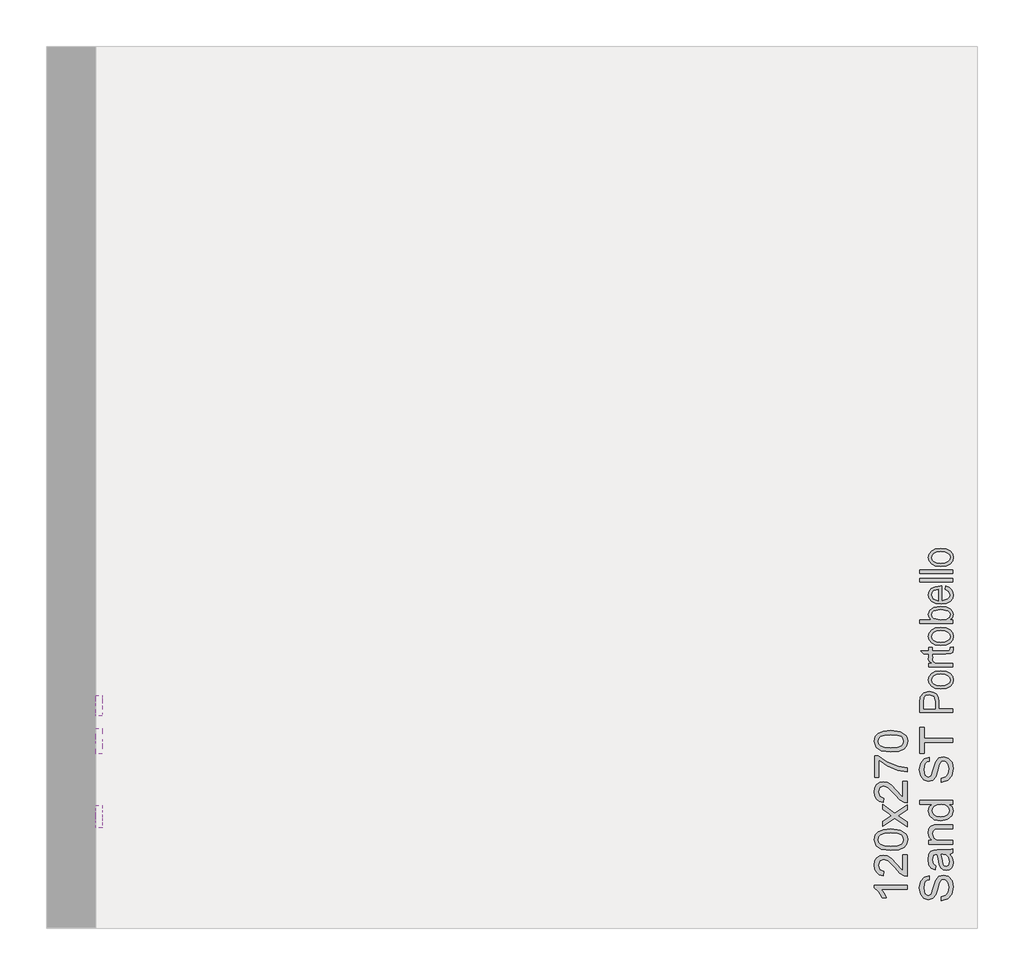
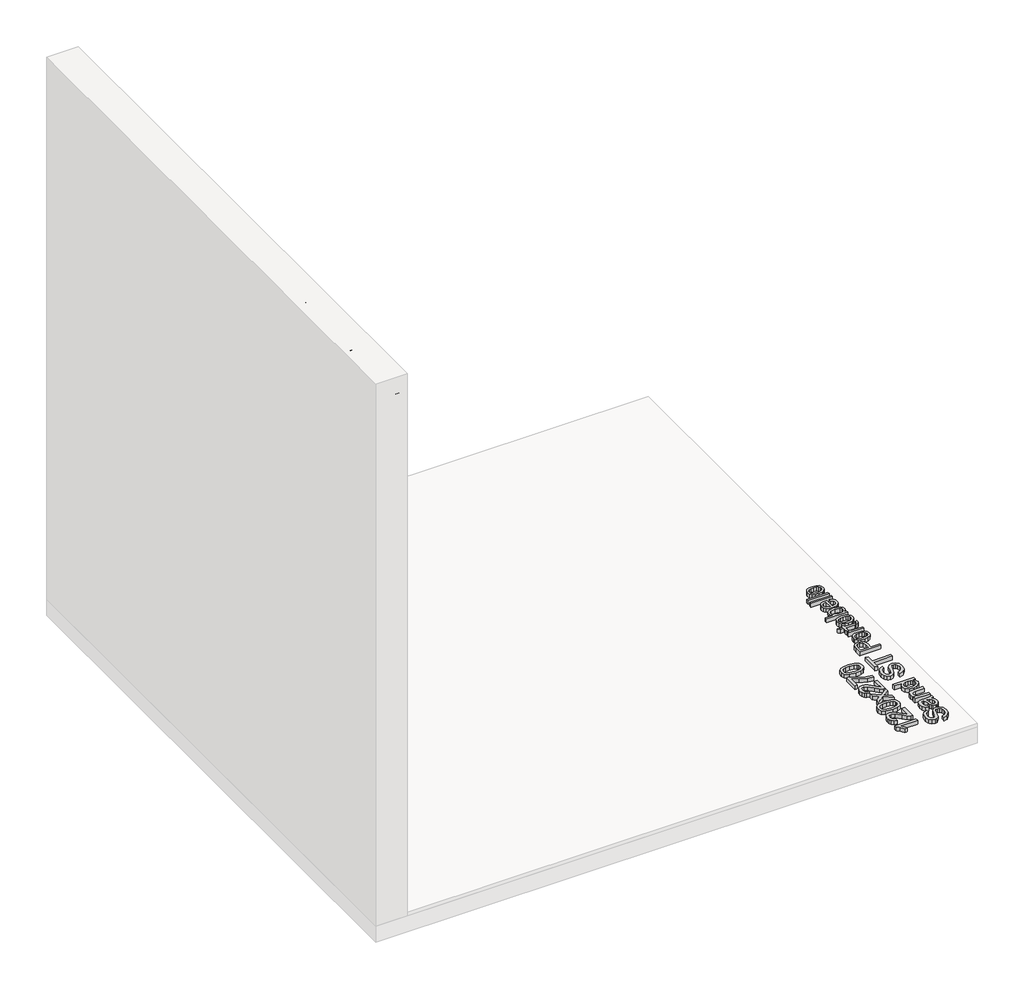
# One storey, part 9 of 19: 6 proxies.
"""IFC4 building model written with IfcOpenShell, lengths in millimetres."""

from ifc_helpers import new_model, si_unit, frame, origin, origin_with_axes, place, context, project, spatial, polyline, outline, extrude, element, save

model = new_model("IFC4")

# Units and contexts
model_context = context("Model", 3, world=origin())
ifc_project = project(units=[si_unit("LENGTHUNIT", "METRE", prefix="MILLI")], contexts=[model_context])

# Site, building, storey
site = spatial("IfcSite", under=ifc_project)
building = spatial("IfcBuilding", under=site)
storey = spatial("IfcBuildingStorey", under=building, Name="PORTOBELLO - SHOWROOM", Elevation=0.0)

# Proxies
placement = place(None, origin())
element("IfcBuildingElementProxy", 1, Name="10mm Arial", ObjectType="10mm Arial", at=placement, inside=storey, context=model_context, shape_type="SweptSolid", body=[
    extrude(outline(polyline([(-6404.3068753, 4387.4843452), (-6404.3068753, 4400.0413839), (-6391.7375738, 4404.0880859), (-6383.7913227, 4413.9718488), (-6380.7624276, 4429.0304851), (-6383.0555587, 4442.1516096), (-6389.3586036, 4450.6251583), (-6397.7831013, 4453.4087987), (-6405.6189878, 4451.3241341), (-6411.3211587, 4442.7892718), (-6416.1158873, 4424.5055366), (-6422.3085676, 4404.8238499), (-6431.6527703, 4394.1430093), (-6444.1362326, 4390.6236049), (-6458.3487404, 4394.9768751), (-6468.3796561, 4407.6933294), (-6471.8009587, 4426.3081584), (-6468.2202406, 4446.1737861), (-6457.6988155, 4459.4175379), (-6441.9779916, 4464.3962076), (-6441.9779916, 4451.8391688), (-6449.4705216, 4449.533775), (-6454.8783869, 4444.7267836), (-6459.2439199, 4426.7986677), (-6454.9274378, 4408.8215009), (-6444.5041146, 4403.1806436), (-6435.7975741, 4407.1782946), (-6428.7832907, 4427.6815845), (-6422.4802459, 4449.901657), (-6412.3021773, 4462.0540256), (-6398.1019323, 4465.9658375), (-6383.0800842, 4461.4654144), (-6372.1172007, 4448.5159682), (-6368.2053888, 4429.5209945), (-6372.4237691, 4407.0924555), (-6385.1279606, 4392.9044732), (-6404.3068753, 4387.4843452)])), origin_with_axes(), (0.0, 0.0, 1.0), 20.0),
    extrude(outline(polyline([(-6379.1927978, 4530.3206612), (-6370.6824609, 4518.1437671), (-6368.2053888, 4504.6915488), (-6369.6953109, 4494.1977149), (-6374.1650772, 4486.4568646), (-6380.9525, 4481.6835957), (-6389.3953918, 4480.0925061), (-6399.3282056, 4482.4960018), (-6406.5386927, 4488.8113094), (-6410.6589711, 4497.603689), (-6412.547432, 4508.4684706), (-6416.8639141, 4530.2470848), (-6419.6598172, 4530.3206612), (-6428.9304435, 4526.8625704), (-6432.5602125, 4512.9811564), (-6430.1444541, 4500.2769649), (-6421.5728036, 4494.2191747), (-6423.1424335, 4481.6621359), (-6435.4051666, 4487.0945267), (-6442.5911283, 4498.0328847), (-6445.1172513, 4514.5998372), (-6442.8854339, 4529.8178891), (-6437.2813648, 4538.414065), (-6428.7587652, 4542.2645633), (-6417.7713563, 4542.8776999), (-6402.1486343, 4542.8776999), (-6380.3332319, 4543.515362), (-6369.7750187, 4546.0169596), (-6369.7750187, 4533.4599208), (-6379.1927978, 4530.3206612)]), holes=[polyline([(-6404.3068753, 4530.3206612), (-6400.4563771, 4510.062626), (-6398.4207634, 4499.259158), (-6395.1098254, 4494.3663275), (-6390.2783086, 4492.6495448), (-6383.4847544, 4496.3896785), (-6380.7624276, 4507.3648247), (-6383.7667972, 4520.0690162), (-6391.038598, 4528.260522), (-6400.7506827, 4530.2470848), (-6404.3068753, 4530.3206612)])]), origin_with_axes(), (0.0, 0.0, 1.0), 20.0),
    extrude(outline(polyline([(-6369.7750187, 4560.1436282), (-6443.5476215, 4560.1436282), (-6443.5476215, 4572.700667), (-6433.2469256, 4572.700667), (-6442.1496699, 4582.3023871), (-6445.1172513, 4595.4112488), (-6442.7260183, 4607.2693118), (-6436.4474989, 4615.3627157), (-6427.2136609, 4619.1273748), (-6415.073555, 4619.7895624), (-6369.7750187, 4619.7895624), (-6369.7750187, 4607.2325236), (-6413.3812978, 4607.2325236), (-6424.4913341, 4605.7855211), (-6430.3651833, 4600.6719614), (-6432.5602125, 4592.0512599), (-6427.6305938, 4578.4273634), (-6420.4875517, 4574.1323411), (-6408.917663, 4572.700667), (-6369.7750187, 4572.700667), (-6369.7750187, 4560.1436282)])), origin_with_axes(), (0.0, 0.0, 1.0), 20.0),
    extrude(outline(polyline([(-6369.7750187, 4682.5747562), (-6381.6208189, 4682.5747562), (-6371.5592464, 4674.2667545), (-6368.2053888, 4662.7827049), (-6373.0614312, 4647.2335592), (-6386.6117513, 4636.2461503), (-6406.5877437, 4632.3466011), (-6426.5759987, 4635.939582), (-6440.3347854, 4646.7062617), (-6445.1172513, 4662.7336539), (-6441.6959487, 4674.3096741), (-6432.8054672, 4682.5747562), (-6470.2313288, 4682.5747562), (-6470.2313288, 4695.131795), (-6369.7750187, 4695.131795), (-6369.7750187, 4682.5747562)]), holes=[polyline([(-6406.6367946, 4644.9036399), (-6395.278438, 4646.3199856), (-6387.2003625, 4650.5690226), (-6382.3719113, 4656.7433088), (-6380.7624276, 4663.9354018), (-6382.2983349, 4671.1244291), (-6386.9060569, 4677.1423654), (-6394.6714327, 4681.2166585), (-6405.6803014, 4682.5747562), (-6417.716174, 4681.1921331), (-6426.0609639, 4677.0442636), (-6430.9354004, 4670.8730431), (-6432.5602125, 4663.420367), (-6430.9997797, 4656.1546976), (-6426.3184813, 4650.2011406), (-6418.2771941, 4646.2280151), (-6406.6367946, 4644.9036399)])]), origin_with_axes(), (0.0, 0.0, 1.0), 20.0),
    extrude(outline(polyline([(-6404.3068753, 4750.0688396), (-6404.3068753, 4762.6258784), (-6391.7375738, 4766.6725803), (-6383.7913227, 4776.5563433), (-6380.7624276, 4791.6149796), (-6383.0555587, 4804.7361041), (-6389.3586036, 4813.2096527), (-6397.7831013, 4815.9932931), (-6405.6189878, 4813.9086285), (-6411.3211587, 4805.3737662), (-6416.1158873, 4787.0900311), (-6422.3085676, 4767.4083443), (-6431.6527703, 4756.7275037), (-6444.1362326, 4753.2080993), (-6458.3487404, 4757.5613696), (-6468.3796561, 4770.2778239), (-6471.8009587, 4788.8926528), (-6468.2202406, 4808.7582806), (-6457.6988155, 4822.0020324), (-6441.9779916, 4826.9807021), (-6441.9779916, 4814.4236633), (-6449.4705216, 4812.1182695), (-6454.8783869, 4807.3112781), (-6459.2439199, 4789.3831622), (-6454.9274378, 4771.4059953), (-6444.5041146, 4765.7651381), (-6435.7975741, 4769.7627891), (-6428.7832907, 4790.2660789), (-6422.4802459, 4812.4861515), (-6412.3021773, 4824.63852), (-6398.1019323, 4828.5503319), (-6383.0800842, 4824.0499088), (-6372.1172007, 4811.1004626), (-6368.2053888, 4792.1054889), (-6372.4237691, 4769.6769499), (-6385.1279606, 4755.4889677), (-6404.3068753, 4750.0688396)])), origin_with_axes(), (0.0, 0.0, 1.0), 20.0),
    extrude(outline(polyline([(-6369.7750187, 4872.4999676), (-6457.6742901, 4872.4999676), (-6457.6742901, 4839.5377408), (-6470.2313288, 4839.5377408), (-6470.2313288, 4918.0192331), (-6457.6742901, 4918.0192331), (-6457.6742901, 4885.0570064), (-6369.7750187, 4885.0570064), (-6369.7750187, 4872.4999676)])), origin_with_axes(), (0.0, 0.0, 1.0), 20.0),
])
element("IfcBuildingElementProxy", 2, Name="10mm Arial", ObjectType="10mm Arial", at=placement, inside=storey, context=model_context, shape_type="SweptSolid", body=[
    extrude(outline(polyline([(4384.1273431, 2550.721447), (4396.6843818, 2550.721447), (4400.7310838, 2538.1521455), (4410.6148467, 2530.2058944), (4425.6734831, 2527.1769993), (4438.7946076, 2529.4701304), (4447.2681562, 2535.7731752), (4450.0517966, 2544.1976729), (4447.967132, 2552.0335594), (4439.4322697, 2557.7357303), (4421.1485345, 2562.530459), (4401.4668478, 2568.7231393), (4390.7860072, 2578.0673419), (4387.2666028, 2590.5508043), (4391.619873, 2604.763312), (4404.3363273, 2614.7942278), (4422.9511563, 2618.2155303), (4442.816784, 2614.6348123), (4456.0605359, 2604.1133872), (4461.0392055, 2588.3925633), (4448.4821668, 2588.3925633), (4446.1767729, 2595.8850932), (4441.3697815, 2601.2929586), (4423.4416656, 2605.6584916), (4405.4644988, 2601.3420095), (4399.8236415, 2590.9186863), (4403.8212925, 2582.2121457), (4424.3245824, 2575.1978624), (4446.5446549, 2568.8948175), (4458.6970235, 2558.716749), (4462.6088354, 2544.516504), (4458.1084123, 2529.4946558), (4445.1589661, 2518.5317724), (4426.1639924, 2514.6199605), (4403.7354534, 2518.8383407), (4389.5474711, 2531.5425323), (4384.1273431, 2550.721447)])), frame((-8994.2033025, 0.0, 0.0), z_axis=(1.0, 0.0, 0.0), x_axis=(0.0, 1.0, 0.0)), (0.0, 0.0, 1.0), 20.0),
    extrude(outline(polyline([(4526.9636591, 2525.6073694), (4514.786765, 2517.0970326), (4501.3345467, 2514.6199605), (4490.8407128, 2516.1098826), (4483.0998625, 2520.5796488), (4478.3265936, 2527.3670716), (4476.735504, 2535.8099634), (4479.1389997, 2545.7427773), (4485.4543073, 2552.9532644), (4494.246687, 2557.0735427), (4505.1114686, 2558.9620036), (4526.8900827, 2563.2784857), (4526.9636591, 2566.0743889), (4523.5055683, 2575.3450152), (4509.6241544, 2578.9747842), (4496.9199628, 2576.5590258), (4490.8621726, 2567.9873753), (4478.3051338, 2569.5570051), (4483.7375246, 2581.8197383), (4494.6758826, 2589.0056999), (4511.2428351, 2591.531823), (4526.460887, 2589.3000055), (4535.057063, 2583.6959365), (4538.9075612, 2575.1733369), (4539.5206978, 2564.185928), (4539.5206978, 2548.5632059), (4540.15836, 2526.7478036), (4542.6599575, 2516.1895903), (4530.1029188, 2516.1895903), (4526.9636591, 2525.6073694)]), holes=[polyline([(4526.9636591, 2550.721447), (4506.7056239, 2546.8709487), (4495.9021559, 2544.835335), (4491.0093254, 2541.5243971), (4489.2925428, 2536.6928802), (4493.0326764, 2529.899326), (4504.0078226, 2527.1769993), (4516.7120141, 2530.1813689), (4524.9035199, 2537.4531697), (4526.8900827, 2547.1652543), (4526.9636591, 2550.721447)])]), frame((-8994.2033025, 0.0, 0.0), z_axis=(1.0, 0.0, 0.0), x_axis=(0.0, 1.0, 0.0)), (0.0, 0.0, 1.0), 20.0),
    extrude(outline(polyline([(4556.7866261, 2516.1895903), (4556.7866261, 2589.9621931), (4569.3436649, 2589.9621931), (4569.3436649, 2579.6614972), (4578.945385, 2588.5642415), (4592.0542467, 2591.531823), (4603.9123097, 2589.14059), (4612.0057136, 2582.8620706), (4615.7703727, 2573.6282325), (4616.4325603, 2561.4881267), (4616.4325603, 2516.1895903), (4603.8755215, 2516.1895903), (4603.8755215, 2559.7958695), (4602.428519, 2570.9059058), (4597.3149593, 2576.7797549), (4588.6942579, 2578.9747842), (4575.0703613, 2574.0451655), (4570.775339, 2566.9021234), (4569.3436649, 2555.3322346), (4569.3436649, 2516.1895903), (4556.7866261, 2516.1895903)])), frame((-8994.2033025, 0.0, 0.0), z_axis=(1.0, 0.0, 0.0), x_axis=(0.0, 1.0, 0.0)), (0.0, 0.0, 1.0), 20.0),
    extrude(outline(polyline([(4679.2177541, 2516.1895903), (4679.2177541, 2528.0353906), (4670.9097524, 2517.973818), (4659.4257028, 2514.6199605), (4643.8765571, 2519.4760028), (4632.8891482, 2533.026323), (4628.9895991, 2553.0023153), (4632.5825799, 2572.9905704), (4643.3492596, 2586.749357), (4659.3766519, 2591.531823), (4670.952672, 2588.1105204), (4679.2177541, 2579.2200388), (4679.2177541, 2616.6459005), (4691.7747929, 2616.6459005), (4691.7747929, 2516.1895903), (4679.2177541, 2516.1895903)]), holes=[polyline([(4641.5466378, 2553.0513663), (4642.9629835, 2541.6930097), (4647.2120206, 2533.6149342), (4653.3863067, 2528.786483), (4660.5783997, 2527.1769993), (4667.767427, 2528.7129066), (4673.7853633, 2533.3206286), (4677.8596564, 2541.0860044), (4679.2177541, 2552.0948731), (4677.835131, 2564.1307457), (4673.6872615, 2572.4755356), (4667.516041, 2577.349972), (4660.0633649, 2578.9747842), (4652.7976955, 2577.4143514), (4646.8441386, 2572.733053), (4642.871013, 2564.6917657), (4641.5466378, 2553.0513663)])]), frame((-8994.2033025, 0.0, 0.0), z_axis=(1.0, 0.0, 0.0), x_axis=(0.0, 1.0, 0.0)), (0.0, 0.0, 1.0), 20.0),
    extrude(outline(polyline([(4746.7118375, 2550.721447), (4759.2688763, 2550.721447), (4763.3155782, 2538.1521455), (4773.1993412, 2530.2058944), (4788.2579775, 2527.1769993), (4801.379102, 2529.4701304), (4809.8526506, 2535.7731752), (4812.6362911, 2544.1976729), (4810.5516264, 2552.0335594), (4802.0167641, 2557.7357303), (4783.733029, 2562.530459), (4764.0513422, 2568.7231393), (4753.3705016, 2578.0673419), (4749.8510972, 2590.5508043), (4754.2043675, 2604.763312), (4766.9208218, 2614.7942278), (4785.5356507, 2618.2155303), (4805.4012785, 2614.6348123), (4818.6450303, 2604.1133872), (4823.6237, 2588.3925633), (4811.0666612, 2588.3925633), (4808.7612674, 2595.8850932), (4803.954276, 2601.2929586), (4786.0261601, 2605.6584916), (4768.0489932, 2601.3420095), (4762.408136, 2590.9186863), (4766.405787, 2582.2121457), (4786.9090769, 2575.1978624), (4809.1291494, 2568.8948175), (4821.2815179, 2558.716749), (4825.1933298, 2544.516504), (4820.6929067, 2529.4946558), (4807.7434605, 2518.5317724), (4788.7484868, 2514.6199605), (4766.3199479, 2518.8383407), (4752.1319656, 2531.5425323), (4746.7118375, 2550.721447)])), frame((-8994.2033025, 0.0, 0.0), z_axis=(1.0, 0.0, 0.0), x_axis=(0.0, 1.0, 0.0)), (0.0, 0.0, 1.0), 20.0),
    extrude(outline(polyline([(4869.1429655, 2516.1895903), (4869.1429655, 2604.0888617), (4836.1807387, 2604.0888617), (4836.1807387, 2616.6459005), (4914.6622311, 2616.6459005), (4914.6622311, 2604.0888617), (4881.7000043, 2604.0888617), (4881.7000043, 2516.1895903), (4869.1429655, 2516.1895903)])), frame((-8994.2033025, 0.0, 0.0), z_axis=(1.0, 0.0, 0.0), x_axis=(0.0, 1.0, 0.0)), (0.0, 0.0, 1.0), 20.0),
])
element("IfcBuildingElementProxy", 3, Name="10mm Arial", ObjectType="10mm Arial", at=placement, inside=storey, context=model_context, shape_type="SweptSolid", body=[
    extrude(outline(polyline([(4431.2162385, 2381.1895903), (4418.6591997, 2381.1895903), (4418.6591997, 2459.4748789), (4406.7643485, 2451.0013303), (4393.5451221, 2444.6614972), (4393.5451221, 2456.531823), (4411.9514846, 2468.2795213), (4423.1228346, 2481.6459005), (4431.2162385, 2481.6459005), (4431.2162385, 2381.1895903)])), frame((-8994.2033025, 0.0, 0.0), z_axis=(1.0, 0.0, 0.0), x_axis=(0.0, 1.0, 0.0)), (0.0, 0.0, 1.0), 20.0),
    extrude(outline(polyline([(4525.3940292, 2393.7466291), (4525.3940292, 2381.1895903), (4459.4695757, 2381.1895903), (4460.8184763, 2389.84708), (4468.4581591, 2403.1766709), (4484.1912458, 2417.7325352), (4505.8594953, 2438.652758), (4511.2673606, 2452.8775285), (4506.1538009, 2464.3922349), (4492.7996844, 2469.0888617), (4478.8814823, 2464.5025995), (4473.5962443, 2451.8229334), (4461.0392055, 2453.3925633), (4464.083429, 2465.5388005), (4470.6654511, 2474.4108879), (4480.4419151, 2479.8371473), (4493.0694646, 2481.6459005), (4505.7889846, 2479.6348123), (4515.5470545, 2473.6015475), (4521.7550632, 2464.5884386), (4523.8243994, 2453.6378179), (4521.5925819, 2441.730704), (4514.1736284, 2429.4189199), (4496.1841988, 2412.2143053), (4481.7386991, 2400.1355131), (4476.0733164, 2393.7466291), (4525.3940292, 2393.7466291)])), frame((-8994.2033025, 0.0, 0.0), z_axis=(1.0, 0.0, 0.0), x_axis=(0.0, 1.0, 0.0)), (0.0, 0.0, 1.0), 20.0),
    extrude(outline(polyline([(4537.951068, 2430.608405), (4541.6421507, 2459.5116671), (4552.6050341, 2476.1767215), (4570.9132948, 2481.6459005), (4585.5795236, 2478.4085389), (4595.7085412, 2469.076599), (4601.5946532, 2454.2141664), (4603.8755215, 2430.608405), (4600.221227, 2401.8277703), (4589.2951318, 2385.1259277), (4581.0637721, 2380.9964523), (4570.9132948, 2379.6199605), (4557.8657467, 2382.0111935), (4547.9574583, 2389.1848924), (4540.4526656, 2406.1749092), (4537.951068, 2430.608405)]), holes=[polyline([(4550.5081068, 2430.6329305), (4551.9796347, 2410.880733), (4556.3942187, 2399.4488), (4562.9670437, 2393.9949495), (4570.9132948, 2392.1769993), (4578.8595459, 2394.0010808), (4585.4323708, 2399.4733255), (4589.8469548, 2410.9113899), (4591.3184828, 2430.6329305), (4589.8960057, 2449.9406039), (4585.6285746, 2461.4614417), (4579.0680123, 2467.1820067), (4570.766142, 2469.0888617), (4562.90573, 2467.4088673), (4556.5904224, 2462.3688839), (4552.0286857, 2450.1306762), (4550.5081068, 2430.6329305)])]), frame((-8994.2033025, 0.0, 0.0), z_axis=(1.0, 0.0, 0.0), x_axis=(0.0, 1.0, 0.0)), (0.0, 0.0, 1.0), 20.0),
    extrude(outline(polyline([(4610.1540409, 2381.1895903), (4636.9849011, 2418.2966209), (4611.7236708, 2454.9621931), (4626.7823071, 2454.9621931), (4638.9714639, 2437.2793319), (4644.6858975, 2428.9651988), (4649.6400417, 2435.7832784), (4663.5214557, 2454.9621931), (4678.6291429, 2454.9621931), (4652.0925884, 2418.2720955), (4677.6481243, 2381.1895903), (4662.5649625, 2381.1895903), (4647.1629696, 2403.5077647), (4644.3670665, 2407.6035176), (4625.2617282, 2381.1895903), (4610.1540409, 2381.1895903)])), frame((-8994.2033025, 0.0, 0.0), z_axis=(1.0, 0.0, 0.0), x_axis=(0.0, 1.0, 0.0)), (0.0, 0.0, 1.0), 20.0),
    extrude(outline(polyline([(4749.8510972, 2393.7466291), (4749.8510972, 2381.1895903), (4683.9266437, 2381.1895903), (4685.2755443, 2389.84708), (4692.9152271, 2403.1766709), (4708.6483138, 2417.7325352), (4730.3165633, 2438.652758), (4735.7244286, 2452.8775285), (4730.6108689, 2464.3922349), (4717.2567524, 2469.0888617), (4703.3385503, 2464.5025995), (4698.0533123, 2451.8229334), (4685.4962735, 2453.3925633), (4688.540497, 2465.5388005), (4695.1225191, 2474.4108879), (4704.8989831, 2479.8371473), (4717.5265326, 2481.6459005), (4730.2460526, 2479.6348123), (4740.0041225, 2473.6015475), (4746.2121311, 2464.5884386), (4748.2814674, 2453.6378179), (4746.0496499, 2441.730704), (4738.6306964, 2429.4189199), (4720.6412668, 2412.2143053), (4706.1957671, 2400.1355131), (4700.5303844, 2393.7466291), (4749.8510972, 2393.7466291)])), frame((-8994.2033025, 0.0, 0.0), z_axis=(1.0, 0.0, 0.0), x_axis=(0.0, 1.0, 0.0)), (0.0, 0.0, 1.0), 20.0),
    extrude(outline(polyline([(4762.408136, 2467.5192319), (4762.408136, 2480.0762706), (4828.3325895, 2480.0762706), (4828.3325895, 2469.9227276), (4809.6319214, 2442.9079264), (4795.3213118, 2408.4864344), (4790.6614732, 2381.1895903), (4778.1044344, 2381.1895903), (4783.0953668, 2409.516504), (4796.7928398, 2441.5345003), (4815.7755507, 2467.5192319), (4762.408136, 2467.5192319)])), frame((-8994.2033025, 0.0, 0.0), z_axis=(1.0, 0.0, 0.0), x_axis=(0.0, 1.0, 0.0)), (0.0, 0.0, 1.0), 20.0),
    extrude(outline(polyline([(4839.3199984, 2430.608405), (4843.0110811, 2459.5116671), (4853.9739646, 2476.1767215), (4872.2822252, 2481.6459005), (4886.9484541, 2478.4085389), (4897.0774717, 2469.076599), (4902.9635836, 2454.2141664), (4905.244452, 2430.608405), (4901.5901575, 2401.8277703), (4890.6640622, 2385.1259277), (4882.4327026, 2380.9964523), (4872.2822252, 2379.6199605), (4859.2346771, 2382.0111935), (4849.3263887, 2389.1848924), (4841.821596, 2406.1749092), (4839.3199984, 2430.608405)]), holes=[polyline([(4851.8770372, 2430.6329305), (4853.3485652, 2410.880733), (4857.7631491, 2399.4488), (4864.3359741, 2393.9949495), (4872.2822252, 2392.1769993), (4880.2284763, 2394.0010808), (4886.8013013, 2399.4733255), (4891.2158852, 2410.9113899), (4892.6874132, 2430.6329305), (4891.2649362, 2449.9406039), (4886.997505, 2461.4614417), (4880.4369428, 2467.1820067), (4872.1350724, 2469.0888617), (4864.2746604, 2467.4088673), (4857.9593529, 2462.3688839), (4853.3976161, 2450.1306762), (4851.8770372, 2430.6329305)])]), frame((-8994.2033025, 0.0, 0.0), z_axis=(1.0, 0.0, 0.0), x_axis=(0.0, 1.0, 0.0)), (0.0, 0.0, 1.0), 20.0),
])
element("IfcBuildingElementProxy", 4, Name="10mm Arial", ObjectType="10mm Arial", at=placement, inside=storey, context=model_context, shape_type="SweptSolid", body=[
    extrude(outline(polyline([(-6509.7750187, 4434.5732405), (-6509.7750187, 4422.0162018), (-6588.0603073, 4422.0162018), (-6579.5867586, 4410.1213506), (-6573.2469256, 4396.9021242), (-6585.1172513, 4396.9021242), (-6596.8649497, 4415.3084867), (-6610.2313288, 4426.4798366), (-6610.2313288, 4434.5732405), (-6509.7750187, 4434.5732405)])), origin_with_axes(), (0.0, 0.0, 1.0), 20.0),
    extrude(outline(polyline([(-6522.3320575, 4528.7510313), (-6509.7750187, 4528.7510313), (-6509.7750187, 4462.8265778), (-6518.4325083, 4464.1754784), (-6531.7620993, 4471.8151612), (-6546.3179635, 4487.5482478), (-6567.2381863, 4509.2164974), (-6581.4629568, 4514.6243627), (-6592.9776633, 4509.510803), (-6597.6742901, 4496.1566865), (-6593.0880279, 4482.2384844), (-6580.4083618, 4476.9532464), (-6581.9779916, 4464.3962076), (-6594.1242288, 4467.4404311), (-6602.9963163, 4474.0224532), (-6608.4225757, 4483.7989172), (-6610.2313288, 4496.4264667), (-6608.2202406, 4509.1459866), (-6602.1869759, 4518.9040566), (-6593.173867, 4525.1120652), (-6582.2232463, 4527.1814015), (-6570.3161324, 4524.949584), (-6558.0043483, 4517.5306305), (-6540.7997336, 4499.5412009), (-6528.7209414, 4485.0957012), (-6522.3320575, 4479.4303185), (-6522.3320575, 4528.7510313)])), origin_with_axes(), (0.0, 0.0, 1.0), 20.0),
    extrude(outline(polyline([(-6559.1938334, 4541.3080701), (-6588.0970955, 4544.9991528), (-6604.7621498, 4555.9620362), (-6610.2313288, 4574.2702968), (-6606.9939673, 4588.9365257), (-6597.6620273, 4599.0655433), (-6582.7995947, 4604.9516552), (-6559.1938334, 4607.2325236), (-6530.4131986, 4603.5782291), (-6513.711356, 4592.6521339), (-6509.5818806, 4584.4207742), (-6508.2053888, 4574.2702968), (-6510.5966218, 4561.2227487), (-6517.7703207, 4551.3144603), (-6534.7603375, 4543.8096676), (-6559.1938334, 4541.3080701)]), holes=[polyline([(-6559.2183588, 4553.8651088), (-6539.4661614, 4555.3366368), (-6528.0342284, 4559.7512208), (-6522.5803778, 4566.3240457), (-6520.7624276, 4574.2702968), (-6522.5865092, 4582.2165479), (-6528.0587538, 4588.7893729), (-6539.4968182, 4593.2039569), (-6559.2183588, 4594.6754848), (-6578.5260322, 4593.2530078), (-6590.04687, 4588.9855766), (-6595.7674351, 4582.4250144), (-6597.6742901, 4574.123144), (-6595.9942956, 4566.2627321), (-6590.9543123, 4559.9474245), (-6578.7161046, 4555.3856878), (-6559.2183588, 4553.8651088)])]), origin_with_axes(), (0.0, 0.0, 1.0), 20.0),
    extrude(outline(polyline([(-6509.7750187, 4613.511043), (-6546.8820493, 4640.3419032), (-6583.5476215, 4615.0806728), (-6583.5476215, 4630.1393092), (-6565.8647602, 4642.328466), (-6557.5506271, 4648.0428996), (-6564.3687068, 4652.9970438), (-6583.5476215, 4666.8784578), (-6583.5476215, 4681.986145), (-6546.8575238, 4655.4495904), (-6509.7750187, 4681.0051264), (-6509.7750187, 4665.9219646), (-6532.0931931, 4650.5199717), (-6536.1889459, 4647.7240685), (-6509.7750187, 4628.6187303), (-6509.7750187, 4613.511043)])), origin_with_axes(), (0.0, 0.0, 1.0), 20.0),
    extrude(outline(polyline([(-6522.3320575, 4753.2080993), (-6509.7750187, 4753.2080993), (-6509.7750187, 4687.2836458), (-6518.4325083, 4688.6325464), (-6531.7620993, 4696.2722292), (-6546.3179635, 4712.0053158), (-6567.2381863, 4733.6735654), (-6581.4629568, 4739.0814307), (-6592.9776633, 4733.9678709), (-6597.6742901, 4720.6137545), (-6593.0880279, 4706.6955524), (-6580.4083618, 4701.4103144), (-6581.9779916, 4688.8532756), (-6594.1242288, 4691.8974991), (-6602.9963163, 4698.4795211), (-6608.4225757, 4708.2559852), (-6610.2313288, 4720.8835347), (-6608.2202406, 4733.6030546), (-6602.1869759, 4743.3611246), (-6593.173867, 4749.5691332), (-6582.2232463, 4751.6384695), (-6570.3161324, 4749.406652), (-6558.0043483, 4741.9876984), (-6540.7997336, 4723.9982689), (-6528.7209414, 4709.5527692), (-6522.3320575, 4703.8873865), (-6522.3320575, 4753.2080993)])), origin_with_axes(), (0.0, 0.0, 1.0), 20.0),
    extrude(outline(polyline([(-6596.1046602, 4765.7651381), (-6608.661699, 4765.7651381), (-6608.661699, 4831.6895916), (-6598.5081559, 4831.6895916), (-6571.4933547, 4812.9889235), (-6537.0718627, 4798.6783139), (-6509.7750187, 4794.0184753), (-6509.7750187, 4781.4614365), (-6538.1019323, 4786.4523689), (-6570.1199286, 4800.1498419), (-6596.1046602, 4819.1325528), (-6596.1046602, 4765.7651381)])), origin_with_axes(), (0.0, 0.0, 1.0), 20.0),
    extrude(outline(polyline([(-6559.1938334, 4842.6770005), (-6588.0970955, 4846.3680832), (-6604.7621498, 4857.3309667), (-6610.2313288, 4875.6392273), (-6606.9939673, 4890.3054562), (-6597.6620273, 4900.4344738), (-6582.7995947, 4906.3205857), (-6559.1938334, 4908.6014541), (-6530.4131986, 4904.9471596), (-6513.711356, 4894.0210643), (-6509.5818806, 4885.7897047), (-6508.2053888, 4875.6392273), (-6510.5966218, 4862.5916792), (-6517.7703207, 4852.6833908), (-6534.7603375, 4845.1785981), (-6559.1938334, 4842.6770005)]), holes=[polyline([(-6559.2183588, 4855.2340393), (-6539.4661614, 4856.7055673), (-6528.0342284, 4861.1201512), (-6522.5803778, 4867.6929762), (-6520.7624276, 4875.6392273), (-6522.5865092, 4883.5854784), (-6528.0587538, 4890.1583034), (-6539.4968182, 4894.5728873), (-6559.2183588, 4896.0444153), (-6578.5260322, 4894.6219382), (-6590.04687, 4890.3545071), (-6595.7674351, 4883.7939449), (-6597.6742901, 4875.4920745), (-6595.9942956, 4867.6316625), (-6590.9543123, 4861.3163549), (-6578.7161046, 4856.7546182), (-6559.2183588, 4855.2340393)])]), origin_with_axes(), (0.0, 0.0, 1.0), 20.0),
])
element("IfcBuildingElementProxy", 5, Name="10mm Arial Narrow", ObjectType="10mm Arial Narrow", at=placement, inside=storey, context=model_context, shape_type="SweptSolid", body=[
    extrude(outline(polyline([(-6369.7750187, 4964.5071343), (-6470.4936224, 4964.5071343), (-6470.4936224, 4995.804019), (-6468.6153017, 5012.0997205), (-6459.1348585, 5023.5727066), (-6442.1157497, 5027.8623851), (-6430.0399242, 5026.0760767), (-6420.4135304, 5020.7171515), (-6414.112272, 5010.9733626), (-6412.0118525, 4996.0324634), (-6412.0118525, 4974.254096), (-6369.7750187, 4974.254096), (-6369.7750187, 4964.5071343)]), holes=[polyline([(-6423.3833078, 4974.254096), (-6423.3833078, 4997.2254509), (-6427.914122, 5013.0896463), (-6441.5827127, 5018.1154234), (-6451.7484892, 5015.6406089), (-6457.548439, 5009.6629801), (-6459.1221672, 4996.9970065), (-6459.1221672, 4974.254096), (-6423.3833078, 4974.254096)])]), origin_with_axes(), (0.0, 0.0, 1.0), 20.0),
    extrude(outline(polyline([(-6406.3261249, 5035.9848531), (-6422.9169004, 5037.939322), (-6434.8689853, 5043.8027286), (-6442.0935398, 5052.6612953), (-6444.5017247, 5063.6012445), (-6442.0935398, 5074.4142801), (-6434.8689853, 5083.2982295), (-6423.1072708, 5089.2377842), (-6407.0876063, 5091.2176358), (-6389.9257197, 5089.2726855), (-6377.7832645, 5083.4378344), (-6370.5587099, 5074.5887862), (-6368.1505251, 5063.6012445), (-6370.5650556, 5052.7406163), (-6377.8086472, 5043.8661854), (-6389.7670777, 5037.9551862), (-6406.3261249, 5035.9848531)]), holes=[polyline([(-6406.3515076, 5045.7318148), (-6393.7997562, 5047.0358516), (-6384.9284981, 5050.9479622), (-6379.6552396, 5056.789159), (-6377.8974867, 5063.8804543), (-6379.6711038, 5070.6005275), (-6384.9919549, 5076.2926008), (-6393.8790772, 5080.1761558), (-6406.3515076, 5081.4706742), (-6418.8651849, 5080.1666373), (-6427.7237516, 5076.2545267), (-6432.9970102, 5070.41333), (-6434.754763, 5063.3220346), (-6432.9874917, 5056.5543689), (-6427.6856776, 5050.8718141), (-6418.8175923, 5047.0168146), (-6406.3515076, 5045.7318148)])]), origin_with_axes(), (0.0, 0.0, 1.0), 20.0),
    extrude(outline(polyline([(-6377.8974867, 5162.6953546), (-6368.1505251, 5164.3198482), (-6368.1505251, 5156.9588616), (-6370.2699816, 5148.6840972), (-6376.0699314, 5144.3690361), (-6390.7157566, 5143.2014313), (-6433.1302694, 5143.2014313), (-6433.1302694, 5135.0789633), (-6436.3792567, 5135.0789633), (-6431.5057758, 5133.4544697), (-6433.1302694, 5125.8904213), (-6430.8077512, 5119.8112616), (-6424.3224681, 5115.9403979), (-6408.9151616, 5113.9605463), (-6369.7750187, 5113.9605463), (-6369.7750187, 5104.2135847), (-6442.8772311, 5104.2135847), (-6442.8772311, 5113.9605463), (-6433.1810349, 5113.9605463), (-6442.268046, 5120.2046937), (-6444.5017247, 5126.6011372), (-6442.8772311, 5135.0789633), (-6442.8772311, 5143.2014313), (-6459.1221672, 5143.2014313), (-6467.2446352, 5152.948393), (-6442.8772311, 5152.948393), (-6442.8772311, 5162.6953546), (-6433.1302694, 5162.6953546), (-6433.1302694, 5152.948393), (-6388.4820779, 5152.948393), (-6380.4865234, 5153.8114052), (-6377.8974867, 5158.4310589), (-6377.8974867, 5162.6953546)])), origin_with_axes(), (0.0, 0.0, 1.0), 20.0),
    extrude(outline(polyline([(-6406.3261249, 5169.193329), (-6422.9169004, 5171.1477979), (-6434.8689853, 5177.0112045), (-6442.0935398, 5185.8697713), (-6444.5017247, 5196.8097204), (-6442.0935398, 5207.622756), (-6434.8689853, 5216.5067054), (-6423.1072708, 5222.4462602), (-6407.0876063, 5224.4261118), (-6389.9257197, 5222.4811614), (-6377.7832645, 5216.6463103), (-6370.5587099, 5207.7972621), (-6368.1505251, 5196.8097204), (-6370.5650556, 5185.9490922), (-6377.8086472, 5177.0746613), (-6389.7670777, 5171.1636621), (-6406.3261249, 5169.193329)]), holes=[polyline([(-6406.3515076, 5178.9402907), (-6393.7997562, 5180.2443276), (-6384.9284981, 5184.1564381), (-6379.6552396, 5189.9976349), (-6377.8974867, 5197.0889302), (-6379.6711038, 5203.8090034), (-6384.9919549, 5209.5010767), (-6393.8790772, 5213.3846318), (-6406.3515076, 5214.6791501), (-6418.8651849, 5213.3751132), (-6427.7237516, 5209.4630027), (-6432.9970102, 5203.6218059), (-6434.754763, 5196.5305106), (-6432.9874917, 5189.7628448), (-6427.6856776, 5184.08029), (-6418.8175923, 5180.2252905), (-6406.3515076, 5178.9402907)])]), origin_with_axes(), (0.0, 0.0, 1.0), 20.0),
    extrude(outline(polyline([(-6369.7750187, 5247.1690223), (-6369.7750187, 5237.4220606), (-6470.4936224, 5237.4220606), (-6470.4936224, 5247.1690223), (-6435.0847383, 5247.1690223), (-6442.1665151, 5254.568083), (-6444.5017247, 5263.7693163), (-6440.3008858, 5276.651043), (-6427.5714554, 5285.9284245), (-6406.8845446, 5289.4058561), (-6390.4302011, 5287.4735971), (-6378.227462, 5281.6768201), (-6370.6697593, 5273.3036978), (-6368.1505251, 5263.6424028), (-6370.7649445, 5254.3015645), (-6378.5320545, 5247.1690223), (-6369.7750187, 5247.1690223)]), holes=[polyline([(-6406.8845446, 5247.1690223), (-6389.6369913, 5249.2504047), (-6380.9053382, 5255.139194), (-6377.8974867, 5263.5916374), (-6379.686968, 5269.534365), (-6385.0554117, 5274.7727223), (-6406.4784212, 5279.6588945), (-6427.914122, 5274.9504013), (-6433.0446028, 5269.7056983), (-6434.754763, 5263.3885757), (-6432.9652818, 5257.4109468), (-6427.5968381, 5252.1186512), (-6406.8845446, 5247.1690223)])]), origin_with_axes(), (0.0, 0.0, 1.0), 20.0),
    extrude(outline(polyline([(-6392.5179292, 5341.3896516), (-6390.8934356, 5351.1366132), (-6381.006869, 5347.4370829), (-6373.8870181, 5341.618096), (-6369.5846483, 5333.9144427), (-6368.1505251, 5324.5609131), (-6370.5650556, 5312.9673591), (-6377.8086472, 5303.8232369), (-6389.6147815, 5297.8836821), (-6405.7169398, 5295.9038305), (-6422.3838635, 5297.8932006), (-6434.5643927, 5303.861311), (-6442.0173917, 5312.8753468), (-6444.5017247, 5324.0024934), (-6442.1030584, 5334.6854426), (-6434.9070593, 5343.43296), (-6423.1675547, 5349.267811), (-6407.1383717, 5351.2127614), (-6403.8893845, 5351.1366132), (-6403.8893845, 5305.6507922), (-6384.4462266, 5311.6538037), (-6379.5346717, 5317.58384), (-6377.8974867, 5324.6878267), (-6381.5525974, 5334.8662944), (-6392.5179292, 5341.3896516)]), holes=[polyline([(-6413.6363461, 5306.3107427), (-6413.6363461, 5341.3896516), (-6427.9014306, 5337.1253559), (-6433.0414299, 5331.3000233), (-6434.754763, 5324.0786416), (-6429.0436527, 5311.8695568), (-6413.6363461, 5306.3107427)])]), origin_with_axes(), (0.0, 0.0, 1.0), 20.0),
    extrude(outline(polyline([(-6369.7750187, 5364.1325621), (-6470.4936224, 5364.1325621), (-6470.4936224, 5373.8795238), (-6369.7750187, 5373.8795238), (-6369.7750187, 5364.1325621)])), origin_with_axes(), (0.0, 0.0, 1.0), 20.0),
    extrude(outline(polyline([(-6369.7750187, 5390.1244599), (-6470.4936224, 5390.1244599), (-6470.4936224, 5399.8714215), (-6369.7750187, 5399.8714215), (-6369.7750187, 5390.1244599)])), origin_with_axes(), (0.0, 0.0, 1.0), 20.0),
    extrude(outline(polyline([(-6406.3261249, 5411.2428768), (-6422.9169004, 5413.1973456), (-6434.8689853, 5419.0607523), (-6442.0935398, 5427.919319), (-6444.5017247, 5438.8592681), (-6442.0935398, 5449.6723037), (-6434.8689853, 5458.5562531), (-6423.1072708, 5464.4958079), (-6407.0876063, 5466.4756595), (-6389.9257197, 5464.5307091), (-6377.7832645, 5458.6958581), (-6370.5587099, 5449.8468099), (-6368.1505251, 5438.8592681), (-6370.5650556, 5427.99864), (-6377.8086472, 5419.1242091), (-6389.7670777, 5413.2132098), (-6406.3261249, 5411.2428768)]), holes=[polyline([(-6406.3515076, 5420.9898384), (-6393.7997562, 5422.2938753), (-6384.9284981, 5426.2059859), (-6379.6552396, 5432.0471826), (-6377.8974867, 5439.138478), (-6379.6711038, 5445.8585511), (-6384.9919549, 5451.5506244), (-6393.8790772, 5455.4341795), (-6406.3515076, 5456.7286978), (-6418.8651849, 5455.424661), (-6427.7237516, 5451.5125504), (-6432.9970102, 5445.6713536), (-6434.754763, 5438.5800583), (-6432.9874917, 5431.8123925), (-6427.6856776, 5426.1298377), (-6418.8175923, 5422.2748383), (-6406.3515076, 5420.9898384)])]), origin_with_axes(), (0.0, 0.0, 1.0), 20.0),
])
element("IfcBuildingElementProxy", 6, Name="10mm Arial Narrow", ObjectType="10mm Arial Narrow", at=placement, inside=storey, context=model_context, shape_type="SweptSolid", body=[
    extrude(outline(polyline([(4952.6220562, 2516.1895903), (4952.6220562, 2616.9081941), (4983.9189409, 2616.9081941), (5000.2146424, 2615.0298734), (5011.6876285, 2605.5494302), (5015.9773069, 2588.5303214), (5014.1909985, 2576.4544958), (5008.8320733, 2566.8281021), (4999.0882845, 2560.5268436), (4984.1473853, 2558.4264242), (4962.3690178, 2558.4264242), (4962.3690178, 2516.1895903), (4952.6220562, 2516.1895903)]), holes=[polyline([(4962.3690178, 2569.7978794), (4985.3403728, 2569.7978794), (5001.2045682, 2574.3286936), (5006.2303453, 2587.9972844), (5003.7555308, 2598.1630608), (4997.777902, 2603.9630106), (4985.1119283, 2605.5367388), (4962.3690178, 2605.5367388), (4962.3690178, 2569.7978794)])]), frame((-8994.2033025, 0.0, 0.0), z_axis=(1.0, 0.0, 0.0), x_axis=(0.0, 1.0, 0.0)), (0.0, 0.0, 1.0), 20.0),
    extrude(outline(polyline([(5024.099775, 2552.7406965), (5026.0542438, 2569.3314721), (5031.9176505, 2581.2835569), (5040.7762172, 2588.5081115), (5051.7161663, 2590.9162964), (5062.5292019, 2588.5081115), (5071.4131513, 2581.2835569), (5077.3527061, 2569.5218424), (5079.3325577, 2553.5021779), (5077.3876073, 2536.3402913), (5071.5527562, 2524.1978362), (5062.703708, 2516.9732816), (5051.7161663, 2514.5650967), (5040.8555381, 2516.9796273), (5031.9811072, 2524.2232189), (5026.070108, 2536.1816494), (5024.099775, 2552.7406965)]), holes=[polyline([(5033.8467366, 2552.7660793), (5035.1507735, 2540.2143279), (5039.0628841, 2531.3430698), (5044.9040808, 2526.0698112), (5051.9953762, 2524.3120584), (5058.7154493, 2526.0856754), (5064.4075226, 2531.4065266), (5068.2910777, 2540.2936488), (5069.585596, 2552.7660793), (5068.2815591, 2565.2797566), (5064.3694486, 2574.1383233), (5058.5282518, 2579.4115818), (5051.4369565, 2581.1693347), (5044.6692907, 2579.4020633), (5038.9867359, 2574.1002492), (5035.1317364, 2565.232164), (5033.8467366, 2552.7660793)])]), frame((-8994.2033025, 0.0, 0.0), z_axis=(1.0, 0.0, 0.0), x_axis=(0.0, 1.0, 0.0)), (0.0, 0.0, 1.0), 20.0),
    extrude(outline(polyline([(5150.8102765, 2524.3120584), (5152.4347701, 2514.5650967), (5145.0737834, 2514.5650967), (5136.7990191, 2516.6845532), (5132.4839579, 2522.4845031), (5131.3163532, 2537.1303283), (5131.3163532, 2579.5448411), (5123.1938851, 2579.5448411), (5123.1938851, 2582.7938283), (5121.5693915, 2577.9203475), (5114.0053431, 2579.5448411), (5107.9261835, 2577.2223229), (5104.0553198, 2570.7370398), (5102.0754682, 2555.3297332), (5102.0754682, 2516.1895903), (5092.3285065, 2516.1895903), (5092.3285065, 2589.2918027), (5102.0754682, 2589.2918027), (5102.0754682, 2579.5956065), (5108.3196155, 2588.6826176), (5114.7160591, 2590.9162964), (5123.1938851, 2589.2918027), (5131.3163532, 2589.2918027), (5131.3163532, 2605.5367388), (5141.0633148, 2613.6592069), (5141.0633148, 2589.2918027), (5150.8102765, 2589.2918027), (5150.8102765, 2579.5448411), (5141.0633148, 2579.5448411), (5141.0633148, 2534.8966496), (5141.926327, 2526.9010951), (5146.5459807, 2524.3120584), (5150.8102765, 2524.3120584)])), frame((-8994.2033025, 0.0, 0.0), z_axis=(1.0, 0.0, 0.0), x_axis=(0.0, 1.0, 0.0)), (0.0, 0.0, 1.0), 20.0),
    extrude(outline(polyline([(5157.3082509, 2552.7406965), (5159.2627198, 2569.3314721), (5165.1261264, 2581.2835569), (5173.9846931, 2588.5081115), (5184.9246422, 2590.9162964), (5195.7376778, 2588.5081115), (5204.6216273, 2581.2835569), (5210.561182, 2569.5218424), (5212.5410336, 2553.5021779), (5210.5960832, 2536.3402913), (5204.7612322, 2524.1978362), (5195.912184, 2516.9732816), (5184.9246422, 2514.5650967), (5174.0640141, 2516.9796273), (5165.1895832, 2524.2232189), (5159.278584, 2536.1816494), (5157.3082509, 2552.7406965)]), holes=[polyline([(5167.0552125, 2552.7660793), (5168.3592494, 2540.2143279), (5172.27136, 2531.3430698), (5178.1125567, 2526.0698112), (5185.2038521, 2524.3120584), (5191.9239253, 2526.0856754), (5197.6159986, 2531.4065266), (5201.4995536, 2540.2936488), (5202.7940719, 2552.7660793), (5201.4900351, 2565.2797566), (5197.5779245, 2574.1383233), (5191.7367277, 2579.4115818), (5184.6454324, 2581.1693347), (5177.8777666, 2579.4020633), (5172.1952119, 2574.1002492), (5168.3402124, 2565.232164), (5167.0552125, 2552.7660793)])]), frame((-8994.2033025, 0.0, 0.0), z_axis=(1.0, 0.0, 0.0), x_axis=(0.0, 1.0, 0.0)), (0.0, 0.0, 1.0), 20.0),
    extrude(outline(polyline([(5235.2839441, 2516.1895903), (5225.5369825, 2516.1895903), (5225.5369825, 2616.9081941), (5235.2839441, 2616.9081941), (5235.2839441, 2581.49931), (5242.6830049, 2588.5810868), (5251.8842382, 2590.9162964), (5264.7659649, 2586.7154574), (5274.0433463, 2573.986027), (5277.520778, 2553.2991162), (5275.588519, 2536.8447728), (5269.791742, 2524.6420337), (5261.4186196, 2517.084331), (5251.7573246, 2514.5650967), (5242.4164864, 2517.1795161), (5235.2839441, 2524.9466262), (5235.2839441, 2516.1895903)]), holes=[polyline([(5235.2839441, 2553.2991162), (5237.3653266, 2536.051563), (5243.2541159, 2527.3199098), (5251.7065592, 2524.3120584), (5257.6492868, 2526.1015396), (5262.8876441, 2531.4699834), (5267.7738163, 2552.8929928), (5263.0653231, 2574.3286936), (5257.8206201, 2579.4591744), (5251.5034975, 2581.1693347), (5245.5258687, 2579.3798535), (5240.2335731, 2574.0114097), (5235.2839441, 2553.2991162)])]), frame((-8994.2033025, 0.0, 0.0), z_axis=(1.0, 0.0, 0.0), x_axis=(0.0, 1.0, 0.0)), (0.0, 0.0, 1.0), 20.0),
    extrude(outline(polyline([(5329.5045734, 2538.9325009), (5339.2515351, 2537.3080073), (5335.5520047, 2527.4214407), (5329.7330179, 2520.3015898), (5322.0293646, 2515.99922), (5312.675835, 2514.5650967), (5301.082281, 2516.9796273), (5291.9381587, 2524.2232189), (5285.998604, 2536.0293531), (5284.0187524, 2552.1315114), (5286.0081225, 2568.7984351), (5291.9762328, 2580.9789644), (5300.9902686, 2588.4319634), (5312.1174153, 2590.9162964), (5322.8003645, 2588.51763), (5331.5478818, 2581.321631), (5337.3827329, 2569.5821264), (5339.3276832, 2553.5529433), (5339.2515351, 2550.3039561), (5293.765714, 2550.3039561), (5299.7687256, 2530.8607982), (5305.6987618, 2525.9492434), (5312.8027485, 2524.3120584), (5322.9812163, 2527.967169), (5329.5045734, 2538.9325009)]), holes=[polyline([(5294.4256646, 2560.0509178), (5329.5045734, 2560.0509178), (5325.2402777, 2574.3160023), (5319.4149452, 2579.4560016), (5312.1935634, 2581.1693347), (5299.9844786, 2575.4582244), (5294.4256646, 2560.0509178)])]), frame((-8994.2033025, 0.0, 0.0), z_axis=(1.0, 0.0, 0.0), x_axis=(0.0, 1.0, 0.0)), (0.0, 0.0, 1.0), 20.0),
    extrude(outline(polyline([(-8974.2033025, 5361.9944456), (-8974.2033025, 5352.247484), (-8994.2033025, 5352.247484), (-8994.2033025, 5361.9944456), (-8974.2033025, 5361.9944456)])), frame((0.0, 0.0, 2516.1895903), z_axis=(0.0, 0.0, 1.0), x_axis=(1.0, 0.0, 0.0)), (0.0, 0.0, 1.0), 100.7186038),
    extrude(outline(polyline([(-8974.2033025, 5387.9863434), (-8974.2033025, 5378.2393817), (-8994.2033025, 5378.2393817), (-8994.2033025, 5387.9863434), (-8974.2033025, 5387.9863434)])), frame((0.0, 0.0, 2516.1895903), z_axis=(0.0, 0.0, 1.0), x_axis=(1.0, 0.0, 0.0)), (0.0, 0.0, 1.0), 100.7186038),
    extrude(outline(polyline([(5399.3577986, 2552.7406965), (5401.3122675, 2569.3314721), (5407.1756741, 2581.2835569), (5416.0342408, 2588.5081115), (5426.97419, 2590.9162964), (5437.7872256, 2588.5081115), (5446.671175, 2581.2835569), (5452.6107297, 2569.5218424), (5454.5905813, 2553.5021779), (5452.645631, 2536.3402913), (5446.8107799, 2524.1978362), (5437.9617317, 2516.9732816), (5426.97419, 2514.5650967), (5416.1135618, 2516.9796273), (5407.2391309, 2524.2232189), (5401.3281317, 2536.1816494), (5399.3577986, 2552.7406965)]), holes=[polyline([(5409.1047603, 2552.7660793), (5410.4087971, 2540.2143279), (5414.3209077, 2531.3430698), (5420.1621045, 2526.0698112), (5427.2533998, 2524.3120584), (5433.973473, 2526.0856754), (5439.6655463, 2531.4065266), (5443.5491013, 2540.2936488), (5444.8436197, 2552.7660793), (5443.5395828, 2565.2797566), (5439.6274722, 2574.1383233), (5433.7862755, 2579.4115818), (5426.6949801, 2581.1693347), (5419.9273144, 2579.4020633), (5414.2447596, 2574.1002492), (5410.3897601, 2565.232164), (5409.1047603, 2552.7660793)])]), frame((-8994.2033025, 0.0, 0.0), z_axis=(1.0, 0.0, 0.0), x_axis=(0.0, 1.0, 0.0)), (0.0, 0.0, 1.0), 20.0),
])

save(model, "model.ifc")
